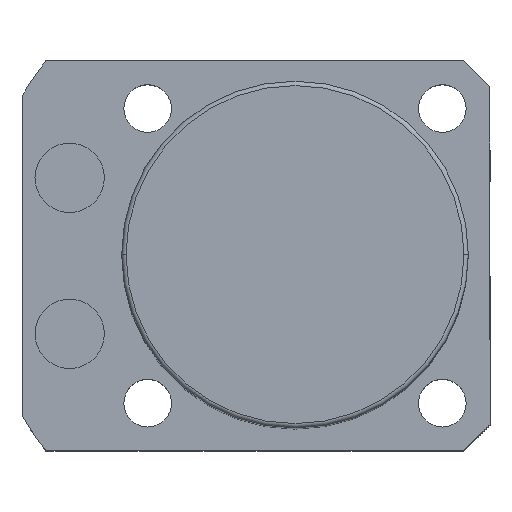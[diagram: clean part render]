
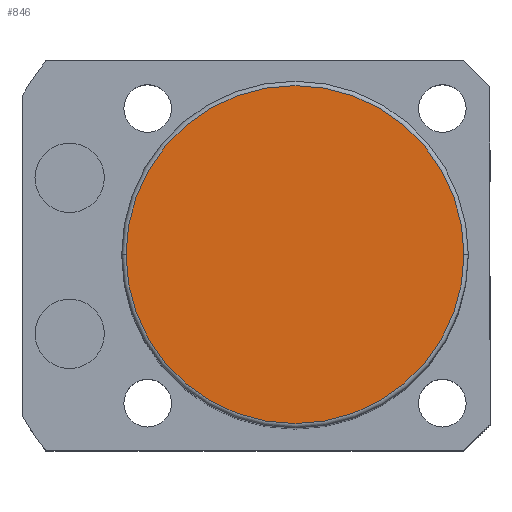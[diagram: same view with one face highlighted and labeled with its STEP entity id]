
A CAD part, top view. The second image highlights one B-rep face of the part: STEP entity #846.
In plain terms, the highlighted planar face has unit normal (0, 0, 1).
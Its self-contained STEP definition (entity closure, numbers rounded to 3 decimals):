
#59 = AXIS2_PLACEMENT_3D ( 'NONE', #1040, #111, #2333 ) ;
#98 = AXIS2_PLACEMENT_3D ( 'NONE', #290, #2119, #1042 ) ;
#111 = DIRECTION ( 'NONE',  ( 0., 0., 1. ) ) ;
#185 = VERTEX_POINT ( 'NONE', #2018 ) ;
#277 = CIRCLE ( 'NONE', #879, 19.5 ) ;
#290 = CARTESIAN_POINT ( 'NONE',  ( 0., 0., 93.5 ) ) ;
#319 = VERTEX_POINT ( 'NONE', #442 ) ;
#442 = CARTESIAN_POINT ( 'NONE',  ( -19.5, 0., 93.5 ) ) ;
#448 = CIRCLE ( 'NONE', #59, 19.5 ) ;
#479 = FACE_OUTER_BOUND ( 'NONE', #2246, .T. ) ;
#488 = PLANE ( 'NONE',  #98 ) ;
#846 = ADVANCED_FACE ( 'NONE', ( #479 ), #488, .T. ) ;
#879 = AXIS2_PLACEMENT_3D ( 'NONE', #921, #888, #2351 ) ;
#888 = DIRECTION ( 'NONE',  ( 0., 0., 1. ) ) ;
#921 = CARTESIAN_POINT ( 'NONE',  ( 0., 0., 93.5 ) ) ;
#1040 = CARTESIAN_POINT ( 'NONE',  ( 0., 0., 93.5 ) ) ;
#1042 = DIRECTION ( 'NONE',  ( 1., 0., 0. ) ) ;
#1174 = ORIENTED_EDGE ( 'NONE', *, *, #1916, .T. ) ;
#1191 = EDGE_CURVE ( 'NONE', #185, #319, #448, .T. ) ;
#1295 = ORIENTED_EDGE ( 'NONE', *, *, #1191, .T. ) ;
#1916 = EDGE_CURVE ( 'NONE', #319, #185, #277, .T. ) ;
#2018 = CARTESIAN_POINT ( 'NONE',  ( 19.5, 0., 93.5 ) ) ;
#2119 = DIRECTION ( 'NONE',  ( 0., 0., 1. ) ) ;
#2246 = EDGE_LOOP ( 'NONE', ( #1295, #1174 ) ) ;
#2333 = DIRECTION ( 'NONE',  ( 1., 0., 0. ) ) ;
#2351 = DIRECTION ( 'NONE',  ( 1., 0., 0. ) ) ;
